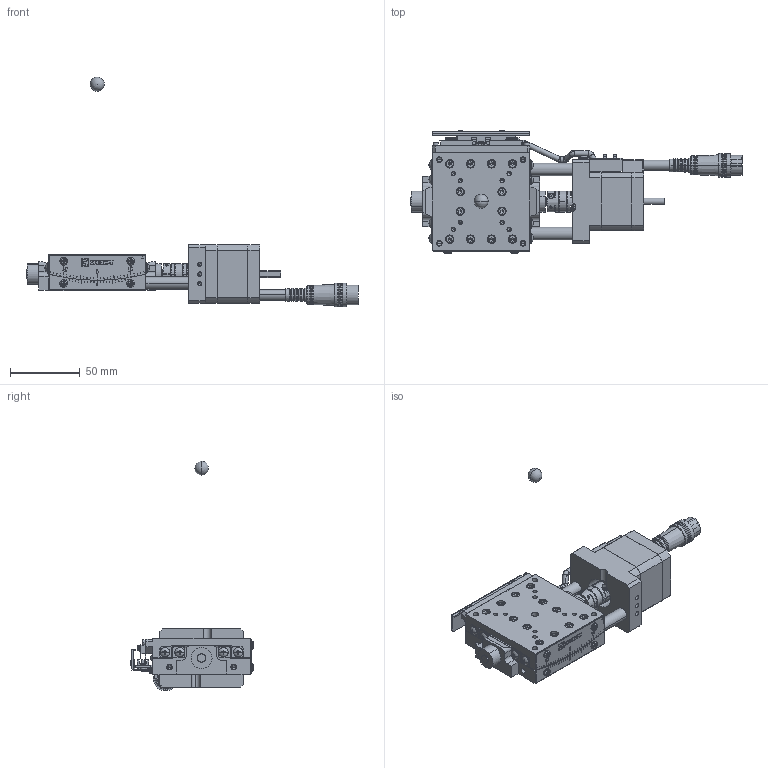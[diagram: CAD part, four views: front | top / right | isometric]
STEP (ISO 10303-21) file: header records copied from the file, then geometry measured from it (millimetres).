
FILE_DESCRIPTION (( 'STEP AP203' ), '1' );
FILE_NAME ('SA07A-RB02.STEP', '2019-02-25T07:20:33', ( '' ), ( '' ), 'SwSTEP 2.0', 'SolidWorks 2018', '' );
FILE_SCHEMA (( 'CONFIG_CONTROL_DESIGN' ));
Length unit declared in the file: millimetre
Products named in the file (8): base-Part-4; base-Part-1; table; base-Part-3; rotation center; base-Part-2; base; SA07A-RB02
Assembly tree (7 placements, depth 3):
  SA07A-RB02
    base
      base-Part-1
      base-Part-2
      base-Part-3
      base-Part-4
    rotation center
    table
Bounding box: 238 x 88.66 x 164.65 mm (x, y, z)
Volume: 251331.6 mm3; surface area: 73762.9 mm2
Topology: 6 solids, 6 shells, 2649 faces, 6728 edges, 4183 vertices
Faces by surface type: plane 1545, cylinder 682, cone 290, torus 76, sphere 50, bspline 6
Entity records: 81171 total; most frequent: CARTESIAN_POINT 15176, DIRECTION 14200, ORIENTED_EDGE 13242, EDGE_CURVE 6621, AXIS2_PLACEMENT_3D 5049, VERTEX_POINT 4174, VECTOR 4102, LINE 4102
